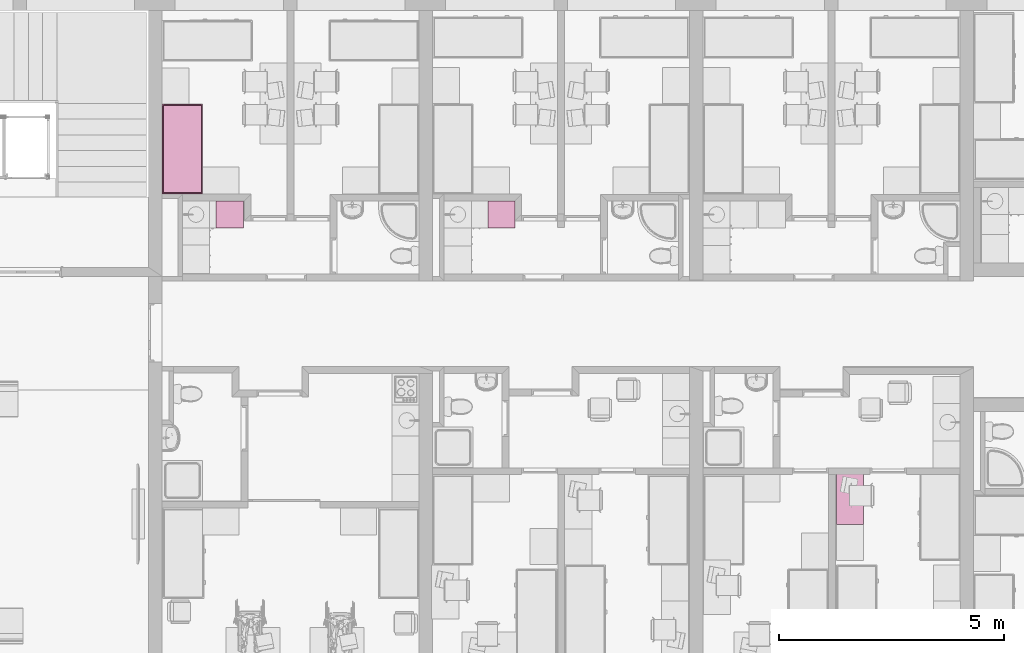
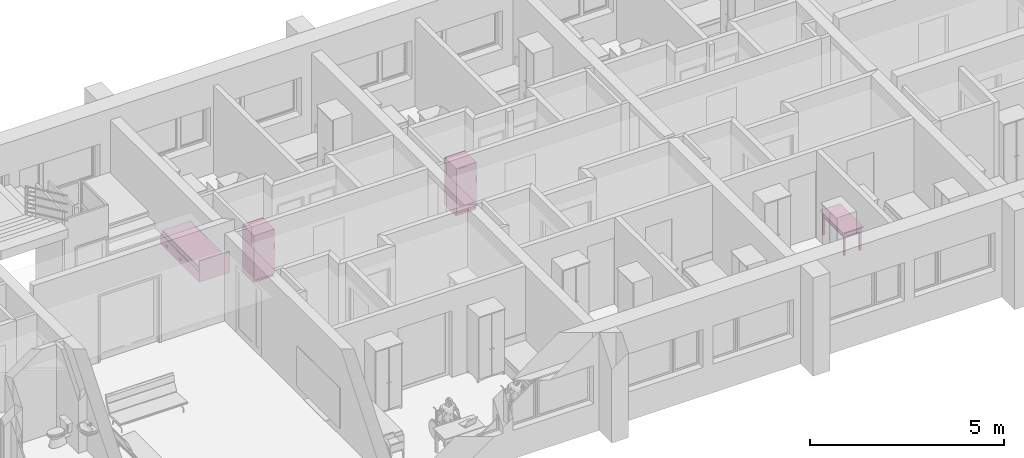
# One storey, part 132 of 172: 4 furnishings.
"""IFC2X3 building model written with IfcOpenShell, lengths in millimetres."""

from ifc_helpers import new_model, entity, si_unit, converted_unit, money_unit, direction, frame, origin_with_axes, place, context, subcontext, project, spatial, open_shell, faceted_brep, surface_model, source, transform, mapped, material, material_list, type_object, element, save


model = new_model("IFC2X3")

# Units and contexts
model_context = context("Model", 3, precision=1e-05, world=origin_with_axes(), true_north=direction((0.0, 1.0)))
body_context = subcontext(model_context, "Body", "Model", "MODEL_VIEW")
ifc_project = project(units=[si_unit("LENGTHUNIT", "METRE", prefix="MILLI"), si_unit("AREAUNIT", "SQUARE_METRE"), si_unit("VOLUMEUNIT", "CUBIC_METRE"), converted_unit("PLANEANGLEUNIT", "DEGREE", entity("IfcPlaneAngleMeasure", 0.0174532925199), si_unit("PLANEANGLEUNIT", "RADIAN"), dimensions=[0, 0, 0, 0, 0, 0, 0]), si_unit("SOLIDANGLEUNIT", "STERADIAN"), money_unit("USD"), converted_unit("TIMEUNIT", "Year", entity("IfcTimeMeasure", 31556926.0), si_unit("TIMEUNIT", "SECOND"), dimensions=[0, 0, 0, 0, 0, 0, 0]), si_unit("MASSUNIT", "GRAM"), si_unit("THERMODYNAMICTEMPERATUREUNIT", "DEGREE_CELSIUS"), si_unit("LUMINOUSINTENSITYUNIT", "LUMEN")], contexts=[model_context])

# Site, building, storey
site_placement = place(None, origin_with_axes())
site = spatial("IfcSite", under=ifc_project, at=site_placement, Name="Site", CompositionType="ELEMENT")
building_placement = place(site_placement, origin_with_axes())
building = spatial("IfcBuilding", under=site, at=building_placement, Name="Building", CompositionType="ELEMENT")
storey_placement = place(building_placement, frame((0.0, 0.0, 3200.0), z_axis=(0.0, 0.0, 1.0), x_axis=(1.0, 0.0, 0.0)))
storey = spatial("IfcBuildingStorey", under=building, at=storey_placement, Name="3KORRUS", CompositionType="ELEMENT", Elevation=3200.0)

# Furnishings
ifc_material = material(Name="Background")
ifc_material_list = material_list([ifc_material])
furnishing_element_type_1 = type_object("IfcFurnishingElementType", Name="Bed 19")
shared_shape_1 = source(origin_with_axes(), body_context, "Body", "Brep", [
    faceted_brep([(900.0, 1970.0, 0.0), (0.0, 1970.0, 0.0), (0.0, 2000.0, 0.0), (900.0, 2000.0, 0.0), (900.0, 1970.0, 660.0), (0.0, 1970.0, 660.0), (0.0, 2000.0, 660.0), (900.0, 2000.0, 660.0)], [[[0, 1, 2, 3]], [[1, 0, 4, 5]], [[2, 1, 5, 6]], [[3, 2, 6, 7]], [[0, 3, 7, 4]], [[5, 4, 7, 6]]]),
    faceted_brep([(900.0, 0.0, 0.0), (0.0, 0.0, 0.0), (0.0, 1970.0, 0.0), (900.0, 1970.0, 0.0), (900.0, 0.0, 320.0), (0.0, 0.0, 320.0), (0.0, 1970.0, 320.0), (900.0, 1970.0, 320.0)], [[[0, 1, 2, 3]], [[1, 0, 4, 5]], [[2, 1, 5, 6]], [[3, 2, 6, 7]], [[0, 3, 7, 4]], [[5, 4, 7, 6]]]),
    faceted_brep([(905.0, 10.0, 30.0), (900.0, 10.0, 30.0), (900.0, 695.0, 30.0), (905.0, 695.0, 30.0), (905.0, 10.0, 290.0), (900.0, 10.0, 290.0), (900.0, 695.0, 290.0), (905.0, 695.0, 290.0)], [[[0, 1, 2, 3]], [[1, 0, 4, 5]], [[2, 1, 5, 6]], [[3, 2, 6, 7]], [[0, 3, 7, 4]], [[5, 4, 7, 6]]]),
    faceted_brep([(935.0, 307.5, 150.0), (905.0, 307.5, 150.0), (905.0, 397.5, 150.0), (935.0, 397.5, 150.0), (935.0, 307.5, 170.0), (905.0, 307.5, 170.0), (905.0, 397.5, 170.0), (935.0, 397.5, 170.0)], [[[0, 1, 2, 3]], [[1, 0, 4, 5]], [[2, 1, 5, 6]], [[3, 2, 6, 7]], [[0, 3, 7, 4]], [[5, 4, 7, 6]]]),
    faceted_brep([(905.0, 705.0, 30.0), (900.0, 705.0, 30.0), (900.0, 1390.0, 30.0), (905.0, 1390.0, 30.0), (905.0, 705.0, 290.0), (900.0, 705.0, 290.0), (900.0, 1390.0, 290.0), (905.0, 1390.0, 290.0)], [[[0, 1, 2, 3]], [[1, 0, 4, 5]], [[2, 1, 5, 6]], [[3, 2, 6, 7]], [[0, 3, 7, 4]], [[5, 4, 7, 6]]]),
    faceted_brep([(935.0, 1002.5, 150.0), (905.0, 1002.5, 150.0), (905.0, 1092.5, 150.0), (935.0, 1092.5, 150.0), (935.0, 1002.5, 170.0), (905.0, 1002.5, 170.0), (905.0, 1092.5, 170.0), (935.0, 1092.5, 170.0)], [[[0, 1, 2, 3]], [[1, 0, 4, 5]], [[2, 1, 5, 6]], [[3, 2, 6, 7]], [[0, 3, 7, 4]], [[5, 4, 7, 6]]]),
    faceted_brep([(20.0, 40.0, 350.0), (20.0, 1950.0, 350.0), (21.522, 1957.654, 350.0), (25.858, 1964.142, 350.0), (32.346, 1968.478, 350.0), (40.0, 1970.0, 350.0), (860.0, 1970.0, 350.0), (867.654, 1968.478, 350.0), (874.142, 1964.142, 350.0), (878.478, 1957.654, 350.0), (880.0, 1950.0, 350.0), (880.0, 40.0, 350.0), (878.478, 32.346, 350.0), (874.142, 25.858, 350.0), (867.654, 21.522, 350.0), (860.0, 20.0, 350.0), (40.0, 20.0, 350.0), (32.346, 21.522, 350.0), (25.858, 25.858, 350.0), (21.522, 32.346, 350.0), (20.0, 40.0, 420.0), (20.0, 1950.0, 420.0), (21.522, 1957.654, 420.0), (25.858, 1964.142, 420.0), (32.346, 1968.478, 420.0), (40.0, 1970.0, 420.0), (860.0, 1970.0, 420.0), (867.654, 1968.478, 420.0), (874.142, 1964.142, 420.0), (878.478, 1957.654, 420.0), (880.0, 1950.0, 420.0), (880.0, 40.0, 420.0), (878.478, 32.346, 420.0), (874.142, 25.858, 420.0), (867.654, 21.522, 420.0), (860.0, 20.0, 420.0), (40.0, 20.0, 420.0), (32.346, 21.522, 420.0), (25.858, 25.858, 420.0), (21.522, 32.346, 420.0), (21.522, 40.15, 427.654), (21.522, 1949.85, 427.654), (22.956, 1957.06, 427.654), (26.955, 1963.045, 427.654), (32.94, 1967.044, 427.654), (40.15, 1968.478, 427.654), (859.85, 1968.478, 427.654), (867.06, 1967.044, 427.654), (873.045, 1963.045, 427.654), (877.044, 1957.06, 427.654), (878.478, 1949.85, 427.654), (878.478, 40.15, 427.654), (877.044, 32.94, 427.654), (873.045, 26.955, 427.654), (867.06, 22.956, 427.654), (859.85, 21.522, 427.654), (40.15, 21.522, 427.654), (32.94, 22.956, 427.654), (26.955, 26.955, 427.654), (22.956, 32.94, 427.654), (32.346, 41.216, 438.478), (32.346, 1948.784, 438.478), (33.152, 1952.836, 438.478), (34.759, 1955.241, 438.478), (37.164, 1956.848, 438.478), (41.216, 1957.654, 438.478), (858.784, 1957.654, 438.478), (862.836, 1956.848, 438.478), (865.241, 1955.241, 438.478), (866.848, 1952.836, 438.478), (867.654, 1948.784, 438.478), (867.654, 41.216, 438.478), (866.848, 37.164, 438.478), (865.241, 34.759, 438.478), (862.836, 33.152, 438.478), (858.784, 32.346, 438.478), (41.216, 32.346, 438.478), (37.164, 33.152, 438.478), (34.759, 34.759, 438.478), (33.152, 37.164, 438.478), (40.0, 41.97, 440.0), (40.0, 1948.03, 440.0), (40.327, 1949.673, 440.0), (40.0, 1950.0, 439.924), (41.97, 1950.0, 440.0), (858.03, 1950.0, 440.0), (859.673, 1949.673, 440.0), (860.0, 1950.0, 439.924), (860.0, 1948.03, 440.0), (860.0, 41.97, 440.0), (859.673, 40.327, 440.0), (860.0, 40.0, 439.924), (858.03, 40.0, 440.0), (41.97, 40.0, 440.0), (40.327, 40.327, 440.0), (40.0, 40.0, 439.924)], [[[0, 1, 2, 3, 4, 5, 6, 7, 8, 9, 10, 11, 12, 13, 14, 15, 16, 17, 18, 19]], [[1, 0, 20, 21]], [[2, 1, 21, 22]], [[3, 2, 22, 23]], [[4, 3, 23, 24]], [[5, 4, 24, 25]], [[6, 5, 25, 26]], [[7, 6, 26, 27]], [[8, 7, 27, 28]], [[9, 8, 28, 29]], [[10, 9, 29, 30]], [[11, 10, 30, 31]], [[12, 11, 31, 32]], [[13, 12, 32, 33]], [[14, 13, 33, 34]], [[15, 14, 34, 35]], [[16, 15, 35, 36]], [[17, 16, 36, 37]], [[18, 17, 37, 38]], [[19, 18, 38, 39]], [[0, 19, 39, 20]], [[21, 20, 40, 41]], [[22, 21, 41, 42]], [[23, 22, 42, 43]], [[24, 23, 43, 44]], [[25, 24, 44, 45]], [[26, 25, 45, 46]], [[27, 26, 46, 47]], [[28, 27, 47, 48]], [[29, 28, 48, 49]], [[30, 29, 49, 50]], [[31, 30, 50, 51]], [[32, 31, 51, 52]], [[33, 32, 52, 53]], [[34, 33, 53, 54]], [[35, 34, 54, 55]], [[36, 35, 55, 56]], [[37, 36, 56, 57]], [[38, 37, 57, 58]], [[39, 38, 58, 59]], [[20, 39, 59, 40]], [[41, 40, 60, 61]], [[42, 41, 61, 62]], [[43, 42, 62, 63]], [[44, 43, 63, 64]], [[45, 44, 64, 65]], [[46, 45, 65, 66]], [[47, 46, 66, 67]], [[48, 47, 67, 68]], [[49, 48, 68, 69]], [[50, 49, 69, 70]], [[51, 50, 70, 71]], [[52, 51, 71, 72]], [[53, 52, 72, 73]], [[54, 53, 73, 74]], [[55, 54, 74, 75]], [[56, 55, 75, 76]], [[57, 56, 76, 77]], [[58, 57, 77, 78]], [[59, 58, 78, 79]], [[40, 59, 79, 60]], [[61, 60, 80, 81]], [[62, 61, 81, 82, 83]], [[63, 62, 83]], [[64, 63, 83]], [[65, 64, 83, 82, 84]], [[66, 65, 84, 85]], [[67, 66, 85, 86, 87]], [[68, 67, 87]], [[69, 68, 87]], [[70, 69, 87, 86, 88]], [[71, 70, 88, 89]], [[72, 71, 89, 90, 91]], [[73, 72, 91]], [[74, 73, 91]], [[75, 74, 91, 90, 92]], [[76, 75, 92, 93]], [[77, 76, 93, 94, 95]], [[78, 77, 95]], [[79, 78, 95]], [[60, 79, 95, 94, 80]], [[81, 80, 94, 93, 92, 90, 89, 88, 86, 85, 84, 82]]]),
    faceted_brep([(20.0, 40.0, 350.0), (21.522, 32.346, 350.0), (25.858, 25.858, 350.0), (32.346, 21.522, 350.0), (40.0, 20.0, 350.0), (860.0, 20.0, 350.0), (867.654, 21.522, 350.0), (874.142, 25.858, 350.0), (878.478, 32.346, 350.0), (880.0, 40.0, 350.0), (880.0, 1950.0, 350.0), (878.478, 1957.654, 350.0), (874.142, 1964.142, 350.0), (867.654, 1968.478, 350.0), (860.0, 1970.0, 350.0), (40.0, 1970.0, 350.0), (32.346, 1968.478, 350.0), (25.858, 1964.142, 350.0), (21.522, 1957.654, 350.0), (20.0, 1950.0, 350.0), (20.0, 40.0, 320.0), (21.522, 32.346, 320.0), (25.858, 25.858, 320.0), (32.346, 21.522, 320.0), (40.0, 20.0, 320.0), (860.0, 20.0, 320.0), (867.654, 21.522, 320.0), (874.142, 25.858, 320.0), (878.478, 32.346, 320.0), (880.0, 40.0, 320.0), (880.0, 1950.0, 320.0), (878.478, 1957.654, 320.0), (874.142, 1964.142, 320.0), (867.654, 1968.478, 320.0), (860.0, 1970.0, 320.0), (40.0, 1970.0, 320.0), (32.346, 1968.478, 320.0), (25.858, 1964.142, 320.0), (21.522, 1957.654, 320.0), (20.0, 1950.0, 320.0)], [[[0, 1, 2, 3, 4, 5, 6, 7, 8, 9, 10, 11, 12, 13, 14, 15, 16, 17, 18, 19]], [[0, 20, 21, 1]], [[1, 21, 22, 2]], [[2, 22, 23, 3]], [[3, 23, 24, 4]], [[4, 24, 25, 5]], [[5, 25, 26, 6]], [[6, 26, 27, 7]], [[7, 27, 28, 8]], [[8, 28, 29, 9]], [[9, 29, 30, 10]], [[10, 30, 31, 11]], [[11, 31, 32, 12]], [[12, 32, 33, 13]], [[13, 33, 34, 14]], [[14, 34, 35, 15]], [[15, 35, 36, 16]], [[16, 36, 37, 17]], [[17, 37, 38, 18]], [[18, 38, 39, 19]], [[19, 39, 20, 0]], [[20, 39, 38, 37, 36, 35, 34, 33, 32, 31, 30, 29, 28, 27, 26, 25, 24, 23, 22, 21]]]),
])
furnishing_1_placement = place(storey_placement, frame((-5090.29670331, -7216.37850445, 0.0), z_axis=(0.0, 0.0, 1.0), x_axis=(-1.0, 0.0, 0.0)))
element("IfcFurnishingElement", 1, at=furnishing_1_placement, inside=storey, type_object=furnishing_element_type_1, material=ifc_material_list, Name="FU - 013", context=body_context, shape_type="MappedRepresentation", body=[
    mapped(shared_shape_1, transform((0.0, 0.0, 0.0))),
])
furnishing_element_type_2 = type_object("IfcFurnishingElementType", Name="Refrigerator 19")
shared_shape_2 = source(origin_with_axes(), body_context, "Body", "SurfaceModel", [
    faceted_brep([(0.0, 0.0, 1475.0), (600.0, 0.0, 1475.0), (600.0, 0.0, 1500.0), (0.0, 0.0, 1500.0), (0.0, 600.0, 1475.0), (600.0, 600.0, 1475.0), (600.0, 600.0, 1500.0), (0.0, 600.0, 1500.0)], [[[0, 1, 2, 3]], [[0, 4, 5, 1]], [[1, 5, 6, 2]], [[3, 2, 6, 7]], [[4, 0, 3, 7]], [[5, 4, 7, 6]]]),
    faceted_brep([(0.0, 65.0, 0.0), (600.0, 65.0, 0.0), (600.0, 65.0, 1475.0), (0.0, 65.0, 1475.0), (0.0, 600.0, 0.0), (600.0, 600.0, 0.0), (600.0, 600.0, 1475.0), (0.0, 600.0, 1475.0)], [[[0, 1, 2, 3]], [[0, 4, 5, 1]], [[1, 5, 6, 2]], [[3, 2, 6, 7]], [[4, 0, 3, 7]], [[5, 4, 7, 6]]]),
    faceted_brep([(0.0, 30.0, 0.0), (600.0, 30.0, 0.0), (600.0, 30.0, 90.0), (0.0, 30.0, 90.0), (0.0, 60.0, 0.0), (600.0, 60.0, 0.0), (600.0, 60.0, 90.0), (0.0, 60.0, 90.0)], [[[0, 1, 2, 3]], [[0, 4, 5, 1]], [[1, 5, 6, 2]], [[3, 2, 6, 7]], [[4, 0, 3, 7]], [[5, 4, 7, 6]]]),
    faceted_brep([(0.0, 60.0, 90.0), (600.0, 60.0, 90.0), (600.0, 0.0, 90.0), (0.0, 0.0, 90.0), (0.0, 60.0, 1474.5), (600.0, 60.0, 1474.5), (600.0, 0.0, 1474.5), (0.0, 0.0, 1474.5)], [[[0, 1, 2, 3]], [[0, 4, 5, 1]], [[1, 5, 6, 2]], [[3, 2, 6, 7]], [[4, 0, 3, 7]], [[5, 4, 7, 6]]]),
    surface_model("IfcShellBasedSurfaceModel", [(600.0, -30.0, 900.0), (600.0, -30.0, 1100.0), (600.0, 0.0, 1100.0), (600.0, 0.0, 900.0)], [open_shell([[[0, 1, 2, 3]]])]),
    surface_model("IfcShellBasedSurfaceModel", [(600.0, -30.0, 900.0), (600.0, -30.0, 1100.0), (570.0, -30.0, 1100.0), (570.0, -30.0, 900.0)], [open_shell([[[0, 1, 2, 3]]])]),
])
for number, where, z_axis, x_axis, name in (
    (2, (1234.2564771, -9966.37850445, 0.0), (0.0, 0.0, 1.0), (1.0, 0.0, 0.0), "FU - 007"),
    (3, (-4790.30226501, -9967.37850445, 0.0), (0.0, 0.0, 1.0), (1.0, 0.0, 0.0), "FU - 007"),
):
    element("IfcFurnishingElement", number, at=place(storey_placement, frame(where, z_axis=z_axis, x_axis=x_axis)), inside=storey, type_object=furnishing_element_type_2, material=ifc_material_list, Name=name, context=body_context, shape_type="MappedRepresentation", body=[
        mapped(shared_shape_2, transform((0.0, 0.0, 0.0))),
    ])
furnishing_element_type_3 = type_object("IfcFurnishingElementType", Name="Rectangular Table 01 19")
shared_shape_3 = source(origin_with_axes(), body_context, "Body", "Brep", [
    faceted_brep([(-90.0, 40.0, 0.0), (-90.0, 90.0, 0.0), (-40.0, 90.0, 0.0), (-40.0, 40.0, 0.0), (-90.0, 40.0, 725.0), (-90.0, 90.0, 725.0), (-40.0, 90.0, 725.0), (-40.0, 40.0, 725.0)], [[[0, 1, 2, 3]], [[0, 4, 5, 1]], [[1, 5, 6, 2]], [[2, 6, 7, 3]], [[3, 7, 4, 0]], [[7, 6, 5, 4]]]),
    faceted_brep([(-1160.0, 40.0, 0.0), (-1160.0, 90.0, 0.0), (-1110.0, 90.0, 0.0), (-1110.0, 40.0, 0.0), (-1160.0, 40.0, 725.0), (-1160.0, 90.0, 725.0), (-1110.0, 90.0, 725.0), (-1110.0, 40.0, 725.0)], [[[0, 1, 2, 3]], [[0, 4, 5, 1]], [[1, 5, 6, 2]], [[2, 6, 7, 3]], [[3, 7, 4, 0]], [[7, 6, 5, 4]]]),
    faceted_brep([(-90.0, 510.0, 0.0), (-90.0, 560.0, 0.0), (-40.0, 560.0, 0.0), (-40.0, 510.0, 0.0), (-90.0, 510.0, 725.0), (-90.0, 560.0, 725.0), (-40.0, 560.0, 725.0), (-40.0, 510.0, 725.0)], [[[0, 1, 2, 3]], [[0, 4, 5, 1]], [[1, 5, 6, 2]], [[2, 6, 7, 3]], [[3, 7, 4, 0]], [[7, 6, 5, 4]]]),
    faceted_brep([(-1160.0, 510.0, 0.0), (-1160.0, 560.0, 0.0), (-1110.0, 560.0, 0.0), (-1110.0, 510.0, 0.0), (-1160.0, 510.0, 725.0), (-1160.0, 560.0, 725.0), (-1110.0, 560.0, 725.0), (-1110.0, 510.0, 725.0)], [[[0, 1, 2, 3]], [[0, 4, 5, 1]], [[1, 5, 6, 2]], [[2, 6, 7, 3]], [[3, 7, 4, 0]], [[7, 6, 5, 4]]]),
    faceted_brep([(-1160.0, 40.0, 565.0), (-1160.0, 560.0, 565.0), (-40.0, 560.0, 565.0), (-40.0, 40.0, 565.0), (-1160.0, 40.0, 585.0), (-1160.0, 560.0, 585.0), (-40.0, 560.0, 585.0), (-40.0, 40.0, 585.0)], [[[0, 1, 2, 3]], [[0, 4, 5, 1]], [[1, 5, 6, 2]], [[2, 6, 7, 3]], [[3, 7, 4, 0]], [[7, 6, 5, 4]]]),
    faceted_brep([(-1110.0, 52.5, 585.0), (-1110.0, 77.5, 585.0), (-90.0, 77.5, 585.0), (-90.0, 52.5, 585.0), (-1110.0, 52.5, 745.0), (-1110.0, 77.5, 745.0), (-90.0, 77.5, 745.0), (-90.0, 52.5, 745.0)], [[[0, 1, 2, 3]], [[0, 4, 5, 1]], [[1, 5, 6, 2]], [[2, 6, 7, 3]], [[3, 7, 4, 0]], [[7, 6, 5, 4]]]),
    faceted_brep([(-77.5, 90.0, 585.0), (-77.5, 510.0, 585.0), (-52.5, 510.0, 585.0), (-52.5, 90.0, 585.0), (-77.5, 90.0, 745.0), (-77.5, 510.0, 745.0), (-52.5, 510.0, 745.0), (-52.5, 90.0, 745.0)], [[[0, 1, 2, 3]], [[0, 4, 5, 1]], [[1, 5, 6, 2]], [[2, 6, 7, 3]], [[3, 7, 4, 0]], [[7, 6, 5, 4]]]),
    faceted_brep([(-90.0, 547.5, 585.0), (-90.0, 522.5, 585.0), (-1110.0, 522.5, 585.0), (-1110.0, 547.5, 585.0), (-90.0, 547.5, 745.0), (-90.0, 522.5, 745.0), (-1110.0, 522.5, 745.0), (-1110.0, 547.5, 745.0)], [[[0, 1, 2, 3]], [[0, 4, 5, 1]], [[1, 5, 6, 2]], [[2, 6, 7, 3]], [[3, 7, 4, 0]], [[7, 6, 5, 4]]]),
    faceted_brep([(-1122.5, 510.0, 585.0), (-1122.5, 90.0, 585.0), (-1147.5, 90.0, 585.0), (-1147.5, 510.0, 585.0), (-1122.5, 510.0, 745.0), (-1122.5, 90.0, 745.0), (-1147.5, 90.0, 745.0), (-1147.5, 510.0, 745.0)], [[[0, 1, 2, 3]], [[0, 4, 5, 1]], [[1, 5, 6, 2]], [[2, 6, 7, 3]], [[3, 7, 4, 0]], [[7, 6, 5, 4]]]),
    faceted_brep([(-597.5, 40.0, 585.0), (-597.5, 60.0, 585.0), (-95.0, 60.0, 585.0), (-95.0, 40.0, 585.0), (-597.5, 40.0, 745.0), (-597.5, 60.0, 745.0), (-95.0, 60.0, 745.0), (-95.0, 40.0, 745.0)], [[[0, 1, 2, 3]], [[0, 4, 5, 1]], [[1, 5, 6, 2]], [[2, 6, 7, 3]], [[3, 7, 4, 0]], [[7, 6, 5, 4]]]),
    faceted_brep([(-1105.0, 40.0, 585.0), (-1105.0, 60.0, 585.0), (-602.5, 60.0, 585.0), (-602.5, 40.0, 585.0), (-1105.0, 40.0, 745.0), (-1105.0, 60.0, 745.0), (-602.5, 60.0, 745.0), (-602.5, 40.0, 745.0)], [[[0, 1, 2, 3]], [[0, 4, 5, 1]], [[1, 5, 6, 2]], [[2, 6, 7, 3]], [[3, 7, 4, 0]], [[7, 6, 5, 4]]]),
    faceted_brep([(-354.91, 40.0, 660.0), (-356.25, 40.0, 665.0), (-354.91, 40.0, 670.0), (-351.25, 40.0, 673.66), (-346.25, 40.0, 675.0), (-341.25, 40.0, 673.66), (-337.59, 40.0, 670.0), (-336.25, 40.0, 665.0), (-337.59, 40.0, 660.0), (-341.25, 40.0, 656.34), (-346.25, 40.0, 655.0), (-351.25, 40.0, 656.34), (-354.91, 25.0, 660.0), (-356.25, 25.0, 665.0), (-354.91, 25.0, 670.0), (-351.25, 25.0, 673.66), (-346.25, 25.0, 675.0), (-341.25, 25.0, 673.66), (-337.59, 25.0, 670.0), (-336.25, 25.0, 665.0), (-337.59, 25.0, 660.0), (-341.25, 25.0, 656.34), (-346.25, 25.0, 655.0), (-351.25, 25.0, 656.34)], [[[0, 1, 2, 3, 4, 5, 6, 7, 8, 9, 10, 11]], [[0, 12, 13, 1]], [[1, 13, 14, 2]], [[2, 14, 15, 3]], [[3, 15, 16, 4]], [[4, 16, 17, 5]], [[5, 17, 18, 6]], [[6, 18, 19, 7]], [[7, 19, 20, 8]], [[8, 20, 21, 9]], [[9, 21, 22, 10]], [[10, 22, 23, 11]], [[11, 23, 12, 0]], [[12, 23, 22, 21, 20, 19, 18, 17, 16, 15, 14, 13]]]),
    faceted_brep([(-356.25, 12.01, 665.0), (-354.91, 12.01, 660.0), (-346.25, 10.0, 665.0), (-363.571, 17.5, 665.0), (-361.25, 17.5, 656.34), (-351.25, 12.01, 656.34), (-354.91, 12.01, 670.0), (-366.25, 25.0, 665.0), (-363.571, 25.0, 655.0), (-354.91, 17.5, 650.0), (-361.25, 17.5, 673.66), (-346.25, 12.01, 655.0), (-351.25, 12.01, 673.66), (-363.571, 25.0, 675.0), (-356.25, 25.0, 682.321), (-346.25, 25.0, 685.0), (-336.25, 25.0, 682.321), (-328.929, 25.0, 675.0), (-326.25, 25.0, 665.0), (-328.929, 25.0, 655.0), (-336.25, 25.0, 647.679), (-346.25, 25.0, 645.0), (-356.25, 25.0, 647.679), (-346.25, 17.5, 647.679), (-354.91, 17.5, 680.0), (-341.25, 12.01, 656.34), (-346.25, 12.01, 675.0), (-346.25, 17.5, 682.321), (-337.59, 17.5, 680.0), (-331.25, 17.5, 673.66), (-328.929, 17.5, 665.0), (-331.25, 17.5, 656.34), (-337.59, 17.5, 650.0), (-337.59, 12.01, 660.0), (-341.25, 12.01, 673.66), (-337.59, 12.01, 670.0), (-336.25, 12.01, 665.0)], [[[0, 1, 2]], [[3, 4, 1, 0]], [[1, 5, 2]], [[6, 0, 2]], [[7, 8, 4, 3]], [[4, 9, 5, 1]], [[10, 3, 0, 6]], [[5, 11, 2]], [[12, 6, 2]], [[8, 7, 13, 14, 15, 16, 17, 18, 19, 20, 21, 22]], [[8, 22, 9, 4]], [[13, 7, 3, 10]], [[9, 23, 11, 5]], [[24, 10, 6, 12]], [[11, 25, 2]], [[26, 12, 2]], [[14, 13, 10, 24]], [[15, 14, 24, 27]], [[16, 15, 27, 28]], [[17, 16, 28, 29]], [[18, 17, 29, 30]], [[19, 18, 30, 31]], [[20, 19, 31, 32]], [[21, 20, 32, 23]], [[22, 21, 23, 9]], [[23, 32, 25, 11]], [[27, 24, 12, 26]], [[25, 33, 2]], [[34, 26, 2]], [[28, 27, 26, 34]], [[29, 28, 34, 35]], [[30, 29, 35, 36]], [[31, 30, 36, 33]], [[32, 31, 33, 25]], [[33, 36, 2]], [[35, 34, 2]], [[36, 35, 2]]]),
    faceted_brep([(-862.41, 40.0, 660.0), (-863.75, 40.0, 665.0), (-862.41, 40.0, 670.0), (-858.75, 40.0, 673.66), (-853.75, 40.0, 675.0), (-848.75, 40.0, 673.66), (-845.09, 40.0, 670.0), (-843.75, 40.0, 665.0), (-845.09, 40.0, 660.0), (-848.75, 40.0, 656.34), (-853.75, 40.0, 655.0), (-858.75, 40.0, 656.34), (-862.41, 25.0, 660.0), (-863.75, 25.0, 665.0), (-862.41, 25.0, 670.0), (-858.75, 25.0, 673.66), (-853.75, 25.0, 675.0), (-848.75, 25.0, 673.66), (-845.09, 25.0, 670.0), (-843.75, 25.0, 665.0), (-845.09, 25.0, 660.0), (-848.75, 25.0, 656.34), (-853.75, 25.0, 655.0), (-858.75, 25.0, 656.34)], [[[0, 1, 2, 3, 4, 5, 6, 7, 8, 9, 10, 11]], [[0, 12, 13, 1]], [[1, 13, 14, 2]], [[2, 14, 15, 3]], [[3, 15, 16, 4]], [[4, 16, 17, 5]], [[5, 17, 18, 6]], [[6, 18, 19, 7]], [[7, 19, 20, 8]], [[8, 20, 21, 9]], [[9, 21, 22, 10]], [[10, 22, 23, 11]], [[11, 23, 12, 0]], [[12, 23, 22, 21, 20, 19, 18, 17, 16, 15, 14, 13]]]),
    faceted_brep([(-863.75, 12.01, 665.0), (-862.41, 12.01, 660.0), (-853.75, 10.0, 665.0), (-871.071, 17.5, 665.0), (-868.75, 17.5, 656.34), (-858.75, 12.01, 656.34), (-862.41, 12.01, 670.0), (-873.75, 25.0, 665.0), (-871.071, 25.0, 655.0), (-862.41, 17.5, 650.0), (-868.75, 17.5, 673.66), (-853.75, 12.01, 655.0), (-858.75, 12.01, 673.66), (-871.071, 25.0, 675.0), (-863.75, 25.0, 682.321), (-853.75, 25.0, 685.0), (-843.75, 25.0, 682.321), (-836.429, 25.0, 675.0), (-833.75, 25.0, 665.0), (-836.429, 25.0, 655.0), (-843.75, 25.0, 647.679), (-853.75, 25.0, 645.0), (-863.75, 25.0, 647.679), (-853.75, 17.5, 647.679), (-862.41, 17.5, 680.0), (-848.75, 12.01, 656.34), (-853.75, 12.01, 675.0), (-853.75, 17.5, 682.321), (-845.09, 17.5, 680.0), (-838.75, 17.5, 673.66), (-836.429, 17.5, 665.0), (-838.75, 17.5, 656.34), (-845.09, 17.5, 650.0), (-845.09, 12.01, 660.0), (-848.75, 12.01, 673.66), (-845.09, 12.01, 670.0), (-843.75, 12.01, 665.0)], [[[0, 1, 2]], [[3, 4, 1, 0]], [[1, 5, 2]], [[6, 0, 2]], [[7, 8, 4, 3]], [[4, 9, 5, 1]], [[10, 3, 0, 6]], [[5, 11, 2]], [[12, 6, 2]], [[8, 7, 13, 14, 15, 16, 17, 18, 19, 20, 21, 22]], [[8, 22, 9, 4]], [[13, 7, 3, 10]], [[9, 23, 11, 5]], [[24, 10, 6, 12]], [[11, 25, 2]], [[26, 12, 2]], [[14, 13, 10, 24]], [[15, 14, 24, 27]], [[16, 15, 27, 28]], [[17, 16, 28, 29]], [[18, 17, 29, 30]], [[19, 18, 30, 31]], [[20, 19, 31, 32]], [[21, 20, 32, 23]], [[22, 21, 23, 9]], [[23, 32, 25, 11]], [[27, 24, 12, 26]], [[25, 33, 2]], [[34, 26, 2]], [[28, 27, 26, 34]], [[29, 28, 34, 35]], [[30, 29, 35, 36]], [[31, 30, 36, 33]], [[32, 31, 33, 25]], [[33, 36, 2]], [[35, 34, 2]], [[36, 35, 2]]]),
    faceted_brep([(-1200.0, 0.0, 725.0), (-1200.0, 600.0, 725.0), (0.0, 600.0, 725.0), (0.0, 0.0, 725.0), (-1200.0, 0.0, 750.0), (-1200.0, 600.0, 750.0), (0.0, 600.0, 750.0), (0.0, 0.0, 750.0)], [[[0, 1, 2, 3]], [[0, 4, 5, 1]], [[1, 5, 6, 2]], [[2, 6, 7, 3]], [[3, 7, 4, 0]], [[7, 6, 5, 4]]]),
])
furnishing_2_placement = place(storey_placement, frame((9565.99169205, -15339.2398994, 0.0), z_axis=(0.0, 0.0, 1.0), x_axis=(0.0, 1.0, 0.0)))
element("IfcFurnishingElement", 4, at=furnishing_2_placement, inside=storey, type_object=furnishing_element_type_3, material=ifc_material_list, Name="FU - 011", context=body_context, shape_type="MappedRepresentation", body=[
    mapped(shared_shape_3, transform((0.0, 0.0, 0.0))),
])

save(model, "model.ifc")
